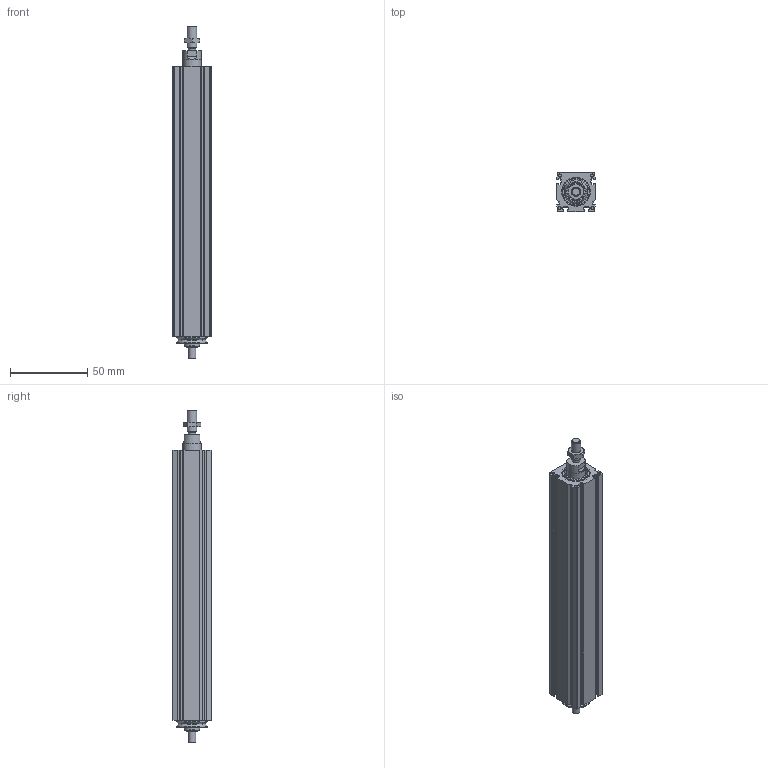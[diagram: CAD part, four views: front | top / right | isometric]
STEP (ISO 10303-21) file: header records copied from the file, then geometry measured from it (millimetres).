
FILE_DESCRIPTION(/* description */ ('STEP AP214'),/* implementation_level */ '2;1');
FILE_NAME(/* name */ 'MCE 25 0606 125 0(0)',/* time_stamp */ '2023-10-05T13:32:17+02:00',/* author */ ('License CC BY-ND 4.0'),/* organization */ ('CADENAS'),/* preprocessor_version */ 'ST-DEVELOPER v19.3',/* originating_system */ 'PARTsolutions',/* authorisation */ ' ');
FILE_SCHEMA (('AUTOMOTIVE_DESIGN {1 0 10303 214 3 1 1}'));
Length unit declared in the file: millimetre
Products named in the file (4): MCE 25 0606 125  0(0); 25_nut; 25(1250)_rod; 25(125)_msc
Assembly tree (3 placements, depth 2):
  MCE 25 0606 125  0(0)
    25_nut
    25(1250)_rod
    25(125)_msc
Bounding box: 25 x 25 x 215 mm (x, y, z)
Volume: 82324.5 mm3; surface area: 44560.9 mm2
Topology: 3 solids, 3 shells, 245 faces, 623 edges, 406 vertices
Faces by surface type: plane 110, cylinder 108, cone 23, torus 4
Full cylindrical faces by diameter (mm): 2.013 x8, 4.8 x1, 4.917 x1, 5 x1, 6 x1, 8 x1, 10 x1, 11.8 x1, 12 x2, 14.7 x1, 15.4 x1, 18 x1, 19 x2, 20 x2
Entity records: 7373 total; most frequent: CARTESIAN_POINT 1327, DIRECTION 1300, ORIENTED_EDGE 1164, EDGE_CURVE 582, AXIS2_PLACEMENT_3D 495, VERTEX_POINT 404, LINE 310, VECTOR 310
